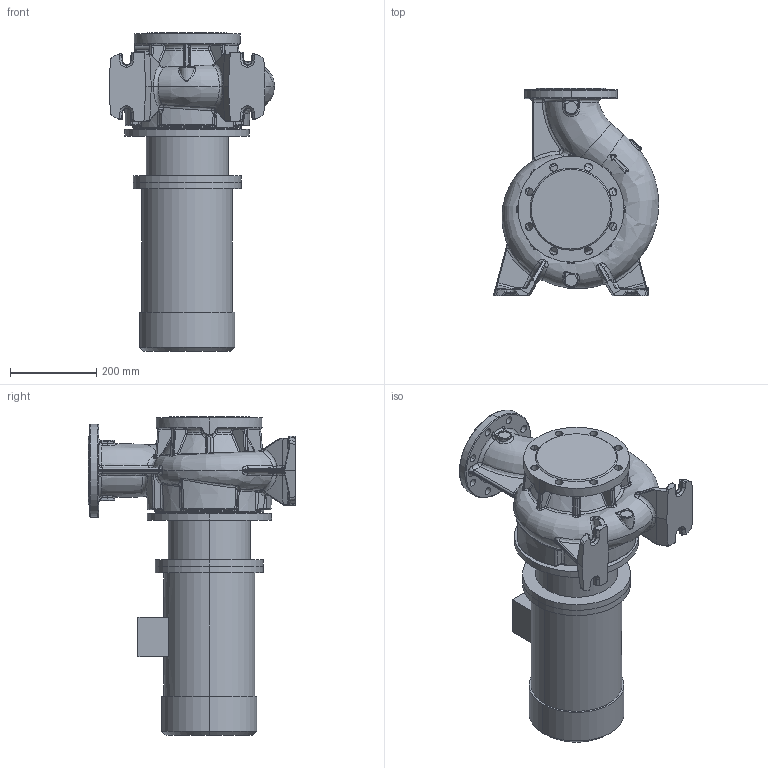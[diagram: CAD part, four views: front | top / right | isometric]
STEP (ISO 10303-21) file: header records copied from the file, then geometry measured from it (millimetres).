
FILE_DESCRIPTION (( 'STEP AP214' ), '1' );
FILE_NAME ('KRM 125-100-160-4-4.STEP', '2026-04-22T08:17:48', ( '' ), ( '' ), 'SwSTEP 2.0', 'SolidWorks 2016', '' );
FILE_SCHEMA (( 'AUTOMOTIVE_DESIGN' ));
Length unit declared in the file: millimetre
Products named in the file (1): KRM 125-100-160-4-4
Bounding box: 382.62 x 480 x 737.8 mm (x, y, z)
Volume: 37144906.6 mm3; surface area: 1429475.3 mm2
Topology: 4 solids, 4 shells, 1104 faces, 2632 edges, 1523 vertices
Faces by surface type: bspline 476, cylinder 259, plane 163, torus 101, cone 58, sphere 47
Entity records: 87233 total; most frequent: CARTESIAN_POINT 53217, ORIENTED_EDGE 5200, DIRECTION 3830, EDGE_CURVE 2600, AXIS2_PLACEMENT_3D 1667, VERTEX_POINT 1523, EDGE_LOOP 1155, UNCERTAINTY_MEASURE_WITH_UNIT 1110
